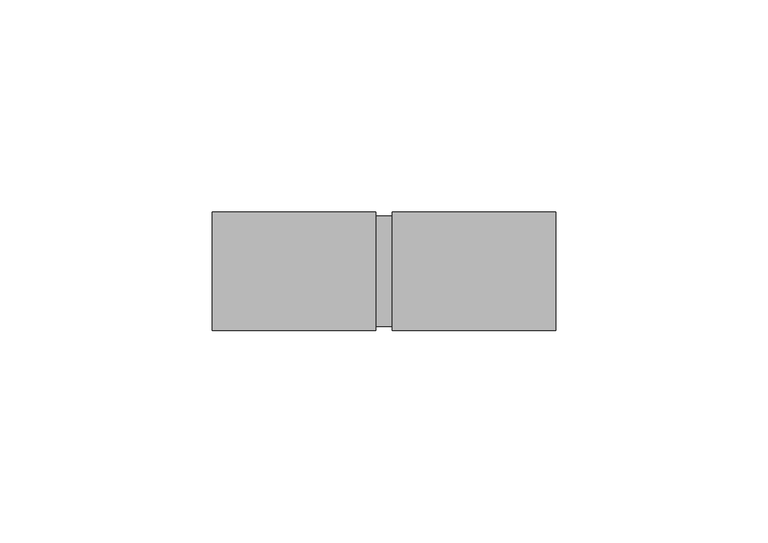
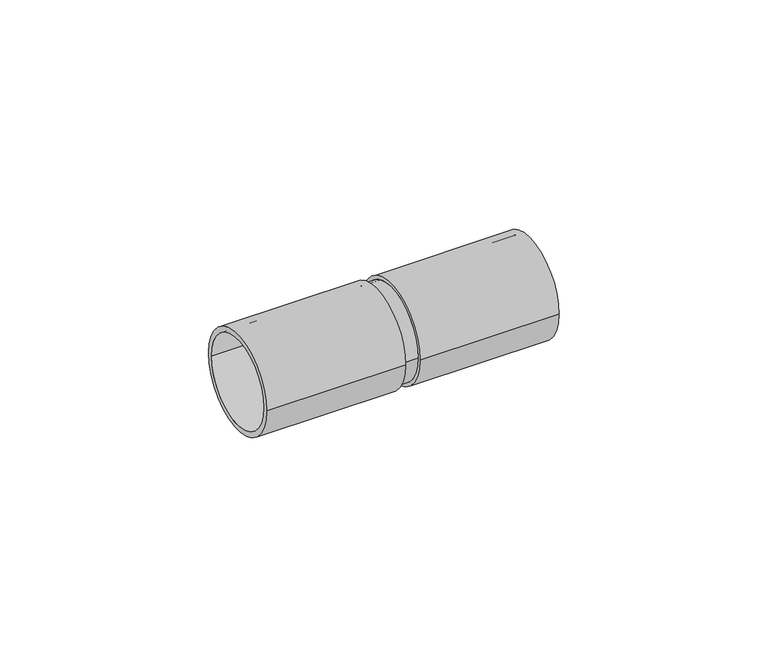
"""IFC4 building model written with IfcOpenShell, lengths in millimetres: cable carrier fitting geometry."""

from ifc_helpers import new_model, si_unit, frame, origin, place, context, project, spatial, polyline, circle_curve, source, transform, mapped, element, save
from ifc_brep_helpers import plane_surface, cylinder_surface, revolved_surface, advanced_brep


def cable_carrier_fitting_6d4e077f(model_context):
    return source(origin(), model_context, "Body", "AdvancedBrep", [
        advanced_brep(
        [(-40.5, -14.0, 0.0), (-40.5, 14.0, 0.0), (-40.5, -12.5, 0.0), (-40.5, 12.5, 0.0), (-2.0, -14.0, 0.0), (-2.0, 14.0, 0.0), (-2.0, -13.0, 0.0), (-2.0, 13.0, 0.0), (-2.0, 12.5, 0.0), (-2.0, -12.5, 0.0), (2.0, -12.5, 0.0), (2.0, 12.5, 0.0), (2.0, -13.0, 0.0), (2.0, 13.0, 0.0), (2.0, -14.0, 0.0), (2.0, 14.0, 0.0), (40.5, -14.0, 0.0), (40.5, 14.0, 0.0), (40.5, -12.5, 0.0), (40.5, 12.5, 0.0)],
        [
            (0, 1, circle_curve(frame((-40.5, 0.0, 0.0), z_axis=(-1.0, 0.0, 0.0), x_axis=(0.0, 1.0, 0.0)), 14.0)),
            (1, 0, circle_curve(frame((-40.5, 0.0, 0.0), z_axis=(-1.0, 0.0, 0.0), x_axis=(0.0, 1.0, 0.0)), 14.0)),
            (2, 3, circle_curve(frame((-40.5, 0.0, 0.0), z_axis=(1.0, 0.0, 0.0), x_axis=(0.0, 1.0, 0.0)), 12.5)),
            (3, 2, circle_curve(frame((-40.5, 0.0, 0.0), z_axis=(1.0, 0.0, 0.0), x_axis=(0.0, 1.0, 0.0)), 12.5)),
            (4, 5, circle_curve(frame((-2.0, 0.0, 0.0), z_axis=(1.0, 0.0, 0.0), x_axis=(0.0, 1.0, 0.0)), 14.0)),
            (5, 4, circle_curve(frame((-2.0, 0.0, 0.0), z_axis=(1.0, 0.0, 0.0), x_axis=(0.0, 1.0, 0.0)), 14.0)),
            (6, 7, circle_curve(frame((-2.0, 0.0, 0.0), z_axis=(-1.0, 0.0, 0.0), x_axis=(0.0, 1.0, 0.0)), 13.0)),
            (7, 6, circle_curve(frame((-2.0, 0.0, 0.0), z_axis=(-1.0, 0.0, 0.0), x_axis=(0.0, 1.0, 0.0)), 13.0)),
            (3, 8),
            (8, 9, circle_curve(frame((-2.0, 0.0, 0.0), z_axis=(1.0, 0.0, 0.0), x_axis=(0.0, 1.0, 0.0)), 12.5)),
            (9, 2),
            (9, 8, circle_curve(frame((-2.0, 0.0, 0.0), z_axis=(1.0, 0.0, 0.0), x_axis=(0.0, 1.0, 0.0)), 12.5)),
            (1, 5),
            (4, 0),
            (9, 10),
            (10, 11, circle_curve(frame((2.0, 0.0, 0.0), z_axis=(1.0, 0.0, 0.0), x_axis=(0.0, 1.0, 0.0)), 12.5)),
            (11, 8),
            (11, 10, circle_curve(frame((2.0, 0.0, 0.0), z_axis=(1.0, 0.0, 0.0), x_axis=(0.0, 1.0, 0.0)), 12.5)),
            (6, 12),
            (12, 13, circle_curve(frame((2.0, 0.0, 0.0), z_axis=(-1.0, 0.0, 0.0), x_axis=(0.0, 1.0, 0.0)), 13.0)),
            (13, 7),
            (13, 12, circle_curve(frame((2.0, 0.0, 0.0), z_axis=(-1.0, 0.0, 0.0), x_axis=(0.0, 1.0, 0.0)), 13.0)),
            (14, 15, circle_curve(frame((2.0, 0.0, 0.0), z_axis=(-1.0, 0.0, 0.0), x_axis=(0.0, 1.0, 0.0)), 14.0)),
            (15, 14, circle_curve(frame((2.0, 0.0, 0.0), z_axis=(-1.0, 0.0, 0.0), x_axis=(0.0, 1.0, 0.0)), 14.0)),
            (16, 17, circle_curve(frame((40.5, 0.0, 0.0), z_axis=(1.0, 0.0, 0.0), x_axis=(0.0, 1.0, 0.0)), 14.0)),
            (17, 16, circle_curve(frame((40.5, 0.0, 0.0), z_axis=(1.0, 0.0, 0.0), x_axis=(0.0, 1.0, 0.0)), 14.0)),
            (18, 19, circle_curve(frame((40.5, 0.0, 0.0), z_axis=(-1.0, 0.0, 0.0), x_axis=(0.0, 1.0, 0.0)), 12.5)),
            (19, 18, circle_curve(frame((40.5, 0.0, 0.0), z_axis=(-1.0, 0.0, 0.0), x_axis=(0.0, 1.0, 0.0)), 12.5)),
            (14, 16),
            (17, 15),
            (19, 11),
            (10, 18),
        ],
        [
            plane_surface(frame((-40.5, 0.0, 0.0), z_axis=(-1.0, 0.0, 0.0), x_axis=(0.0, 0.0, 1.0))),
            plane_surface(frame((-2.0, 0.0, 0.0), z_axis=(1.0, 0.0, 0.0), x_axis=(0.0, 0.0, 1.0))),
            revolved_surface(polyline([(-2.0, 12.5, 0.0), (-40.5, 12.5, 0.0)]), (-40.5, 0.0, 0.0), (1.0, 0.0, 0.0)),
            cylinder_surface(frame((-40.5, 0.0, 0.0), z_axis=(-1.0, 0.0, 0.0), x_axis=(0.0, 1.0, 0.0)), 14.0),
            revolved_surface(polyline([(2.0, 12.5, 0.0), (-2.0, 12.5, 0.0)]), (-2.0, 0.0, 0.0), (1.0, 0.0, 0.0)),
            cylinder_surface(frame((-2.0, 0.0, 0.0), z_axis=(-1.0, 0.0, 0.0), x_axis=(0.0, 1.0, 0.0)), 13.0),
            plane_surface(frame((2.0, 0.0, 0.0), z_axis=(-1.0, 0.0, 0.0), x_axis=(0.0, 0.0, 1.0))),
            plane_surface(frame((40.5, 0.0, 0.0), z_axis=(1.0, 0.0, 0.0), x_axis=(0.0, 0.0, 1.0))),
            cylinder_surface(frame((2.0, 0.0, 0.0), z_axis=(-1.0, 0.0, 0.0), x_axis=(0.0, 1.0, 0.0)), 14.0),
            revolved_surface(polyline([(40.5, 12.5, 0.0), (2.0, 12.5, 0.0)]), (2.0, 0.0, 0.0), (1.0, 0.0, 0.0)),
        ],
        [
            (0, [[1, 2], [3, 4]]),
            (1, [[5, 6], [7, 8]]),
            (2, [[-4, 9, 10, 11]]),
            (2, [[-3, -11, 12, -9]]),
            (3, [[-2, 13, -5, 14]]),
            (3, [[-1, -14, -6, -13]]),
            (4, [[15, 16, 17, -12]]),
            (4, [[-15, -10, -17, 18]]),
            (5, [[19, 20, 21, -7]]),
            (5, [[-19, -8, -21, 22]]),
            (6, [[23, 24], [-20, -22]]),
            (7, [[25, 26], [27, 28]]),
            (8, [[-23, 29, -26, 30]]),
            (8, [[-24, -30, -25, -29]]),
            (9, [[-28, 31, -16, 32]]),
            (9, [[-27, -32, -18, -31]]),
        ],
    ),
    ])


if __name__ == "__main__":
    model = new_model("IFC4")
    model_context = context("Model", 3, world=origin())
    ifc_project = project(units=[si_unit("LENGTHUNIT", "METRE", prefix="MILLI")], contexts=[model_context])
    site = spatial("IfcSite", under=ifc_project)
    building = spatial("IfcBuilding", under=site)
    placement = place(None, origin())
    cable_carrier_fitting_shape = cable_carrier_fitting_6d4e077f(model_context)
    element("IfcCableCarrierFitting", 1, at=placement, inside=building, context=model_context, shape_type="MappedRepresentation", body=[
        mapped(cable_carrier_fitting_shape, transform((0.0, 0.0, 0.0), x_axis=(1.0, 0.0, 0.0), y_axis=(0.0, 1.0, 0.0), z_axis=(0.0, 0.0, 1.0))),
    ])
    save(model, "model.ifc")
